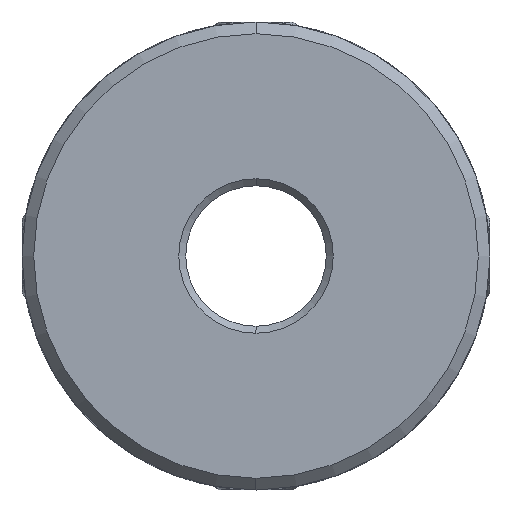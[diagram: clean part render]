
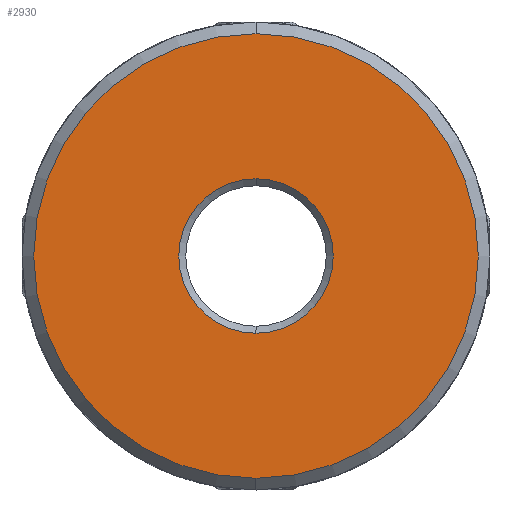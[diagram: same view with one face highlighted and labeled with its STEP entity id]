
A CAD part, front view. The second image highlights one B-rep face of the part: STEP entity #2930.
In plain terms, the highlighted planar face has unit normal (0, -1, 0).
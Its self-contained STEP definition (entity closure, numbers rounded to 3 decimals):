
#79 = CARTESIAN_POINT ( 'NONE',  ( 0., -23., 0. ) ) ;
#168 = DIRECTION ( 'NONE',  ( 0., 0., -1. ) ) ;
#302 = FACE_BOUND ( 'NONE', #6695, .T. ) ;
#900 = DIRECTION ( 'NONE',  ( 0., 1., 0. ) ) ;
#1038 = EDGE_CURVE ( 'NONE', #2989, #3287, #6489, .T. ) ;
#1327 = AXIS2_PLACEMENT_3D ( 'NONE', #79, #6677, #1551 ) ;
#1467 = AXIS2_PLACEMENT_3D ( 'NONE', #5438, #9187, #168 ) ;
#1551 = DIRECTION ( 'NONE',  ( 0., 0., -1. ) ) ;
#1557 = ORIENTED_EDGE ( 'NONE', *, *, #6577, .T. ) ;
#1730 = CIRCLE ( 'NONE', #1327, 9.5 ) ;
#2448 = CIRCLE ( 'NONE', #8740, 3.3 ) ;
#2495 = AXIS2_PLACEMENT_3D ( 'NONE', #5382, #900, #8376 ) ;
#2747 = DIRECTION ( 'NONE',  ( 0., 1., 0. ) ) ;
#2785 = DIRECTION ( 'NONE',  ( 0., 0., -1. ) ) ;
#2930 = ADVANCED_FACE ( 'NONE', ( #302, #4858 ), #9120, .F. ) ;
#2989 = VERTEX_POINT ( 'NONE', #3120 ) ;
#3120 = CARTESIAN_POINT ( 'NONE',  ( 0., -23., 3.3 ) ) ;
#3251 = CIRCLE ( 'NONE', #8631, 9.5 ) ;
#3287 = VERTEX_POINT ( 'NONE', #5813 ) ;
#3463 = ORIENTED_EDGE ( 'NONE', *, *, #6509, .T. ) ;
#4178 = CARTESIAN_POINT ( 'NONE',  ( 0., -23., -9.5 ) ) ;
#4389 = CARTESIAN_POINT ( 'NONE',  ( 0., -23., 0. ) ) ;
#4858 = FACE_OUTER_BOUND ( 'NONE', #9379, .T. ) ;
#5165 = DIRECTION ( 'NONE',  ( 0., -1., 0. ) ) ;
#5382 = CARTESIAN_POINT ( 'NONE',  ( 0., -23., 0. ) ) ;
#5438 = CARTESIAN_POINT ( 'NONE',  ( 50., -23., -15.365 ) ) ;
#5813 = CARTESIAN_POINT ( 'NONE',  ( 0., -23., -3.3 ) ) ;
#6167 = CARTESIAN_POINT ( 'NONE',  ( 0., -23., 9.5 ) ) ;
#6350 = ORIENTED_EDGE ( 'NONE', *, *, #7184, .T. ) ;
#6489 = CIRCLE ( 'NONE', #2495, 3.3 ) ;
#6509 = EDGE_CURVE ( 'NONE', #3287, #2989, #2448, .T. ) ;
#6577 = EDGE_CURVE ( 'NONE', #6842, #7726, #1730, .T. ) ;
#6677 = DIRECTION ( 'NONE',  ( 0., -1., 0. ) ) ;
#6695 = EDGE_LOOP ( 'NONE', ( #8689, #3463 ) ) ;
#6698 = DIRECTION ( 'NONE',  ( 0., 0., -1. ) ) ;
#6842 = VERTEX_POINT ( 'NONE', #6167 ) ;
#7184 = EDGE_CURVE ( 'NONE', #7726, #6842, #3251, .T. ) ;
#7726 = VERTEX_POINT ( 'NONE', #4178 ) ;
#8134 = CARTESIAN_POINT ( 'NONE',  ( 0., -23., 0. ) ) ;
#8376 = DIRECTION ( 'NONE',  ( 0., 0., -1. ) ) ;
#8631 = AXIS2_PLACEMENT_3D ( 'NONE', #8134, #5165, #6698 ) ;
#8689 = ORIENTED_EDGE ( 'NONE', *, *, #1038, .T. ) ;
#8740 = AXIS2_PLACEMENT_3D ( 'NONE', #4389, #2747, #2785 ) ;
#9120 = PLANE ( 'NONE',  #1467 ) ;
#9187 = DIRECTION ( 'NONE',  ( 0., 1., 0. ) ) ;
#9379 = EDGE_LOOP ( 'NONE', ( #6350, #1557 ) ) ;
